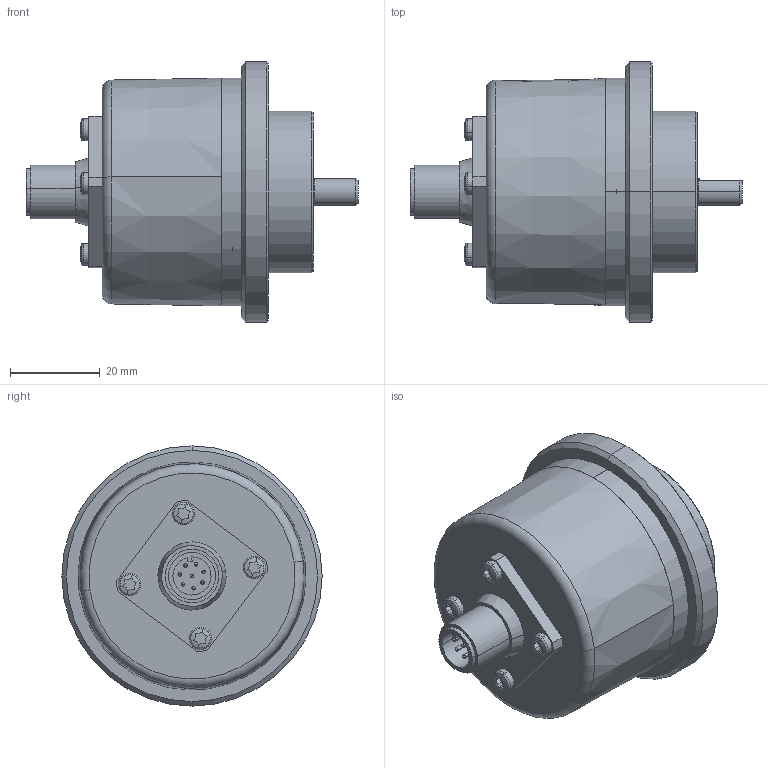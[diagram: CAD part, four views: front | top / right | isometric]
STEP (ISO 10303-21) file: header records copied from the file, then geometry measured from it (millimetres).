
FILE_DESCRIPTION (( 'STEP AP214' ), '1' );
FILE_NAME ('5000.81X3.XXXX.STEP', '2008-12-03T07:15:08', ( 'admin' ), ( 'Fritz Kübler GmbH' ), 'SwSTEP 2.0', 'SolidWorks 2008', '' );
FILE_SCHEMA (( 'AUTOMOTIVE_DESIGN' ));
Length unit declared in the file: millimetre
Products named in the file (1): 5000.81X3.XXXX
Bounding box: 74 x 58 x 58 mm (x, y, z)
Volume: 48133.6 mm3; surface area: 31636.9 mm2
Topology: 9 solids, 10 shells, 505 faces, 1210 edges, 728 vertices
Faces by surface type: cylinder 143, plane 141, cone 89, torus 69, sphere 51, bspline 12
Entity records: 20779 total; most frequent: CARTESIAN_POINT 3594, DIRECTION 2660, ORIENTED_EDGE 2224, AXIS2_PLACEMENT_3D 1126, EDGE_CURVE 1112, VERTEX_POINT 682, CIRCLE 632, EDGE_LOOP 596
